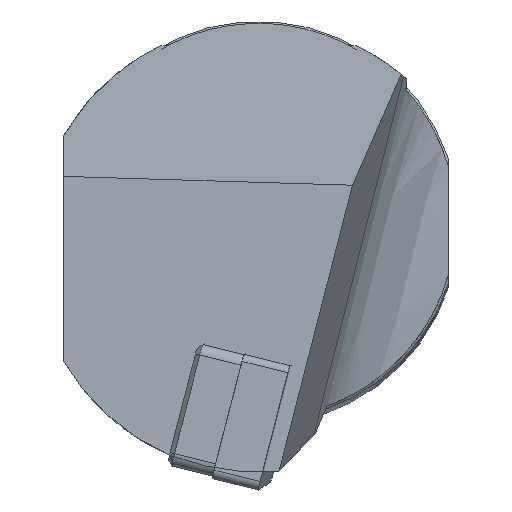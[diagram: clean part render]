
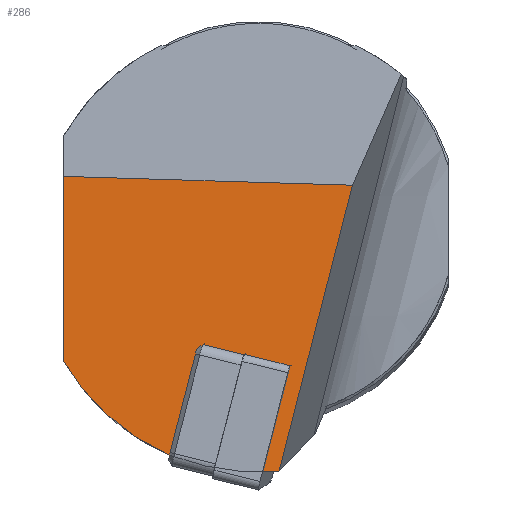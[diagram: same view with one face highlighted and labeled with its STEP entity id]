
A CAD part, top view. The second image highlights one B-rep face of the part: STEP entity #286.
In plain terms, the highlighted planar face has unit normal (-0.062, 0.098, 0.993).
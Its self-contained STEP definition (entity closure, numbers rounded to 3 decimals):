
#104=ELLIPSE('',#1206,25.134,24.962);
#106=ELLIPSE('',#1212,22.699,22.545);
#286=ADVANCED_FACE('',(#364),#323,.F.);
#323=PLANE('',#1213);
#364=FACE_OUTER_BOUND('',#436,.T.);
#436=EDGE_LOOP('',(#645,#646,#647,#648,#649));
#645=ORIENTED_EDGE('',*,*,#935,.T.);
#646=ORIENTED_EDGE('',*,*,#945,.F.);
#647=ORIENTED_EDGE('',*,*,#952,.T.);
#648=ORIENTED_EDGE('',*,*,#953,.T.);
#649=ORIENTED_EDGE('',*,*,#954,.F.);
#813=VERTEX_POINT('',#1749);
#814=VERTEX_POINT('',#1750);
#819=VERTEX_POINT('',#1797);
#823=VERTEX_POINT('',#1892);
#824=VERTEX_POINT('',#1894);
#935=EDGE_CURVE('',#813,#814,#104,.T.);
#945=EDGE_CURVE('',#819,#814,#1040,.T.);
#952=EDGE_CURVE('',#819,#823,#1043,.T.);
#953=EDGE_CURVE('',#823,#824,#1044,.T.);
#954=EDGE_CURVE('',#813,#824,#106,.T.);
#1040=LINE('',#1796,#1109);
#1043=LINE('',#1891,#1112);
#1044=LINE('',#1893,#1113);
#1109=VECTOR('',#1452,1.);
#1112=VECTOR('',#1459,1.);
#1113=VECTOR('',#1460,1.);
#1206=AXIS2_PLACEMENT_3D('',#1748,#1444,#1445);
#1212=AXIS2_PLACEMENT_3D('',#1895,#1461,#1462);
#1213=AXIS2_PLACEMENT_3D('',#1896,#1463,#1464);
#1444=DIRECTION('',(-0.062,0.098,0.993));
#1445=DIRECTION('',(0.533,-0.838,0.116));
#1452=DIRECTION('',(-0.248,-0.966,0.08));
#1459=DIRECTION('',(-0.997,0.031,-0.066));
#1460=DIRECTION('',(0.,-0.995,0.098));
#1461=DIRECTION('',(0.062,-0.098,-0.993));
#1462=DIRECTION('',(0.533,-0.838,0.116));
#1463=DIRECTION('',(0.062,-0.098,-0.993));
#1464=DIRECTION('',(0.,0.995,-0.098));
#1748=CARTESIAN_POINT('',(0.159,-0.249,-2.338));
#1749=CARTESIAN_POINT('',(-8.872,-23.521,-0.608));
#1750=CARTESIAN_POINT('',(2.048,-25.141,0.239));
#1796=CARTESIAN_POINT('',(2.799,-22.214,-0.003));
#1797=CARTESIAN_POINT('',(9.396,3.5,-2.127));
#1891=CARTESIAN_POINT('',(17.112,3.263,-1.619));
#1892=CARTESIAN_POINT('',(-19.5,4.388,-4.032));
#1893=CARTESIAN_POINT('',(-19.5,-40.379,0.388));
#1894=CARTESIAN_POINT('',(-19.5,-14.11,-2.205));
#1895=CARTESIAN_POINT('',(0.,-2.795,-2.096));
#1896=CARTESIAN_POINT('',(15.501,-40.164,2.568));
